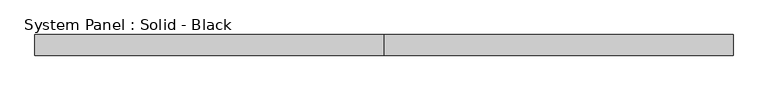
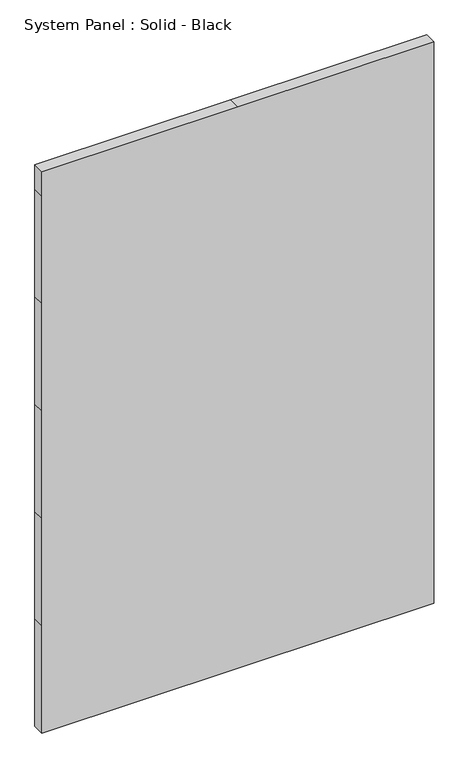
"""IFC4 building model written with IfcOpenShell, lengths in millimetres: plate geometry, System Panel : Solid - Black."""

import ifcopenshell
import ifcopenshell.guid

model = None  # the IFC model being written
_history = None  # IfcOwnerHistory: only IFC2X3 demands one
_inside = {}  # id of a spatial element -> (the spatial element, [elements in it])
_under = {}  # id of a project, library or spatial element -> (it, [spatial elements below it])
_declared = {}  # id of a project -> (the project, [libraries it declares])
_typed = {}  # id of a type object -> (the type object, [elements of that type])
_made_of = {}  # id of a material, layer set ... -> (it, [elements and type objects made of it])


def new_model(schema):
    """Start an empty IFC model of exactly this schema.

    Asked for "IFC4X3", IfcOpenShell would pick the latest addendum, in which some entities
    have other attributes; the version numbers below select the first issue.
    IFC2X3 requires an IfcOwnerHistory on every rooted entity: one is made here for all.
    """
    global model, _history
    if schema == "IFC4X3":
        model = ifcopenshell.file(schema_version=(4, 3, 0, 0))
    else:
        model = ifcopenshell.file(schema=schema)
    _inside.clear()
    _under.clear()
    _declared.clear()
    _typed.clear()
    _made_of.clear()
    _history = None
    if model.schema == "IFC2X3":
        org = make("IfcOrganization", Name="unknown")
        user = make(
            "IfcPersonAndOrganization",
            ThePerson=make("IfcPerson", FamilyName="unknown"),
            TheOrganization=org,
        )
        app = make(
            "IfcApplication",
            ApplicationDeveloper=org,
            Version="unknown",
            ApplicationFullName="unknown",
            ApplicationIdentifier="unknown",
        )
        _history = make(
            "IfcOwnerHistory",
            OwningUser=user,
            OwningApplication=app,
            ChangeAction="ADDED",
            CreationDate=0,
        )
    return model


def make(cls, **values):
    """One entity of the class cls with the attributes given. An attribute that is None is left unset."""
    return model.create_entity(
        cls, **{name: value for name, value in values.items() if value is not None}
    )


def rooted(cls, **values):
    """An entity with a GlobalId (a new one), such as an element, a storey or a relation."""
    return make(cls, GlobalId=ifcopenshell.guid.new(), OwnerHistory=_history, **values)


def si_unit(unit_type, name, prefix=None):
    """IfcSIUnit, for example si_unit("LENGTHUNIT", "METRE", prefix="MILLI")."""
    return make("IfcSIUnit", UnitType=unit_type, Prefix=prefix, Name=name)


def assignment(units):
    """IfcUnitAssignment: the units of a project."""
    return None if units is None else make("IfcUnitAssignment", Units=units)


def point(xyz):
    """IfcCartesianPoint."""
    return None if xyz is None else make("IfcCartesianPoint", Coordinates=xyz)


def direction(xyz):
    """IfcDirection."""
    return None if xyz is None else make("IfcDirection", DirectionRatios=xyz)


def frame(location, z_axis=None, x_axis=None):
    """IfcAxis2Placement3D, a coordinate frame: its origin and axes. An axis left out is left unset."""
    return make(
        "IfcAxis2Placement3D",
        Location=point(location),
        Axis=direction(z_axis),
        RefDirection=direction(x_axis),
    )


def origin():
    """The frame at (0, 0, 0) with its axes left unset."""
    return frame((0.0, 0.0, 0.0))


def place(relative_to, where):
    """IfcLocalPlacement: puts the frame where relative to a parent placement (None: the world)."""
    return make(
        "IfcLocalPlacement", PlacementRelTo=relative_to, RelativePlacement=where
    )


def context(
    kind, dimensions, precision=None, world=None, true_north=None, identifier=None
):
    """IfcGeometricRepresentationContext, for example the 3D "Model" context."""
    return make(
        "IfcGeometricRepresentationContext",
        ContextIdentifier=identifier,
        ContextType=kind,
        CoordinateSpaceDimension=dimensions,
        Precision=precision,
        WorldCoordinateSystem=world,
        TrueNorth=true_north,
    )


def project(units=None, contexts=None):
    """IfcProject with its units and contexts."""
    return rooted(
        "IfcProject",
        Name="project",
        RepresentationContexts=contexts,
        UnitsInContext=assignment(units),
    )


def spatial(cls, under=None, at=None, **own):
    """A site, building, storey or space (cls), placed at a placement, below another one or the project."""
    s = rooted(cls, ObjectPlacement=at, **own)
    if under is not None:
        _under.setdefault(under.id(), (under, []))[1].append(s)
    return s


def polyline(points):
    """IfcPolyline through the points."""
    return make("IfcPolyline", Points=[point(p) for p in points])


def outline(outer, holes=None, kind="AREA"):
    """IfcArbitraryClosedProfileDef: a profile drawn as a closed curve; with holes, ...WithVoids."""
    if holes is None:
        return make("IfcArbitraryClosedProfileDef", ProfileType=kind, OuterCurve=outer)
    return make(
        "IfcArbitraryProfileDefWithVoids",
        ProfileType=kind,
        OuterCurve=outer,
        InnerCurves=holes,
    )


def extrude(swept, where, along, depth):
    """IfcExtrudedAreaSolid: the profile swept, set in the frame where, extruded along a direction by depth."""
    return make(
        "IfcExtrudedAreaSolid",
        SweptArea=swept,
        Position=where,
        ExtrudedDirection=direction(along),
        Depth=depth,
    )


def shape(context_of_items, identifier, shape_type, items):
    """IfcShapeRepresentation: the items that make up one representation, for example the "Body"."""
    return make(
        "IfcShapeRepresentation",
        ContextOfItems=context_of_items,
        RepresentationIdentifier=identifier,
        RepresentationType=shape_type,
        Items=items,
    )


def source(mapping_origin, context_of_items, identifier, shape_type, items):
    """IfcRepresentationMap: a shape defined once, which mapped items show again and again."""
    return make(
        "IfcRepresentationMap",
        MappingOrigin=mapping_origin,
        MappedRepresentation=shape(context_of_items, identifier, shape_type, items),
    )


def transform(
    local_origin,
    x_axis=None,
    y_axis=None,
    z_axis=None,
    scale=None,
    scale2=None,
    scale3=None,
    uniform=True,
):
    """IfcCartesianTransformationOperator3D, or its non-uniform kind. x_axis, y_axis, z_axis: its Axis1, 2, 3."""
    if uniform:
        return make(
            "IfcCartesianTransformationOperator3D",
            Axis1=direction(x_axis),
            Axis2=direction(y_axis),
            LocalOrigin=point(local_origin),
            Scale=scale,
            Axis3=direction(z_axis),
        )
    return make(
        "IfcCartesianTransformationOperator3DnonUniform",
        Axis1=direction(x_axis),
        Axis2=direction(y_axis),
        LocalOrigin=point(local_origin),
        Scale=scale,
        Axis3=direction(z_axis),
        Scale2=scale2,
        Scale3=scale3,
    )


def mapped(mapping_source, mapping_target):
    """IfcMappedItem: shows the shape of a source again, moved by a transform."""
    return make(
        "IfcMappedItem", MappingSource=mapping_source, MappingTarget=mapping_target
    )


def made_of(thing, what):
    """Note that an element or type object is made of a material, layer set ...; save() writes the relation."""
    if what is not None:
        _made_of.setdefault(what.id(), (what, []))[1].append(thing)
    return thing


def element(
    cls,
    number,
    at=None,
    inside=None,
    cuts=None,
    type_object=None,
    material=None,
    context=None,
    identifier="Body",
    shape_type=None,
    held_by="IfcProductDefinitionShape",
    body=None,
    shapes=None,
    **own,
):
    """One element of the class cls, such as IfcWall. Its Tag is "e" and its number.

    at: its placement. inside: the storey or other place that contains it. cuts: it is an
    opening in that element (IfcRelVoidsElement). A single representation is given by context,
    identifier, shape_type and body (its items); several are given by shapes. held_by: the class
    of the entity that holds the representations. save() writes the other relations.
    """
    e = rooted(cls, Tag="e%d" % number, ObjectPlacement=at, **own)
    if body is not None:
        shapes = [shape(context, identifier, shape_type, body)]
    if shapes is not None:
        e.Representation = make(held_by, Representations=shapes)
    if inside is not None:
        _inside.setdefault(inside.id(), (inside, []))[1].append(e)
    if cuts is not None:
        rooted(
            "IfcRelVoidsElement", RelatingBuildingElement=cuts, RelatedOpeningElement=e
        )
    if type_object is not None:
        _typed.setdefault(type_object.id(), (type_object, []))[1].append(e)
    return made_of(e, material)


def aggregate(whole, parts):
    """IfcRelAggregates: a whole, such as a stair, and the parts it consists of."""
    return rooted("IfcRelAggregates", RelatingObject=whole, RelatedObjects=parts)


def save(model, path):
    """Write the relations noted so far, then the file.

    IfcRelAggregates (storeys below a building ...), IfcRelContainedInSpatialStructure (elements
    in a storey), IfcRelDefinesByType, IfcRelAssociatesMaterial and IfcRelDeclares: one each for
    every whole, place, type object, material and project.
    """
    for whole, parts in _under.values():
        aggregate(whole, parts)
    for where, things in _inside.values():
        rooted(
            "IfcRelContainedInSpatialStructure",
            RelatedElements=things,
            RelatingStructure=where,
        )
    for kind, things in _typed.values():
        rooted("IfcRelDefinesByType", RelatedObjects=things, RelatingType=kind)
    for what, things in _made_of.values():
        rooted("IfcRelAssociatesMaterial", RelatedObjects=things, RelatingMaterial=what)
    for by, libraries in _declared.values():
        rooted("IfcRelDeclares", RelatingContext=by, RelatedDefinitions=libraries)
    model.write(path)


def system_panel_solid_black_fee7476e(model_context):
    return source(origin(), model_context, "Body", "SweptSolid", [
        extrude(outline(polyline([(0.0, -1052.2857143), (0.0, 0.0), (0.0, 1052.2857143), (609.6, 1052.2857143), (1219.2, 1052.2857143), (1828.8, 1052.2857143), (2438.4, 1052.2857143), (3048.0, 1052.2857143), (3187.5604781, 1052.2857143), (3187.5604781, 0.0), (3187.5604781, -1052.2857143), (3048.0, -1052.2857143), (2438.4, -1052.2857143), (1828.8, -1052.2857143), (1219.2, -1052.2857143), (609.6, -1052.2857143), (0.0, -1052.2857143)])), frame((0.0, -19.05, 0.0), z_axis=(0.0, 1.0, 0.0), x_axis=(0.0, 0.0, 1.0)), (0.0, 0.0, 1.0), 63.5),
    ])


if __name__ == "__main__":
    model = new_model("IFC4")
    model_context = context("Model", 3, world=origin())
    ifc_project = project(units=[si_unit("LENGTHUNIT", "METRE", prefix="MILLI")], contexts=[model_context])
    site = spatial("IfcSite", under=ifc_project)
    building = spatial("IfcBuilding", under=site)
    placement = place(None, origin())
    system_panel_solid_black_shape = system_panel_solid_black_fee7476e(model_context)
    element("IfcPlate", 1, ObjectType="System Panel : Solid - Black", at=placement, inside=building, context=model_context, shape_type="MappedRepresentation", body=[
        mapped(system_panel_solid_black_shape, transform((0.0, 0.0, 0.0), x_axis=(1.0, 0.0, 0.0), y_axis=(0.0, 1.0, 0.0), z_axis=(0.0, 0.0, 1.0))),
    ])
    save(model, "model.ifc")
